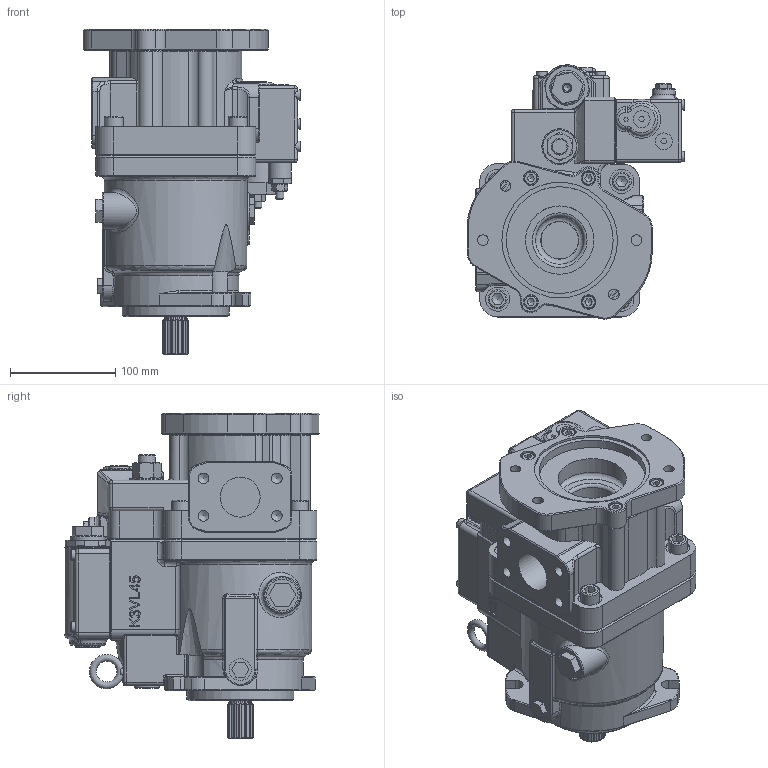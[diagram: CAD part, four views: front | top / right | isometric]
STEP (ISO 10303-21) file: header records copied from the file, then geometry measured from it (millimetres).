
FILE_DESCRIPTION((''),'2;1');
FILE_NAME('J:\Inventor\K3V, M2X\MODEL LIBRARY\K3VL45B 1BBRSM PO 1-H.stp','2008-04-30T12:29:59',('mnorman'),(''),'Autodesk Inventor 2008','Autodesk Inventor 2008','');
FILE_SCHEMA(('AUTOMOTIVE_DESIGN { 1 0 10303 214 1 1 1 1 }'));
Length unit declared in the file: millimetre
Products named in the file (1): Part6
Bounding box: 207 x 242.14 x 310 mm (x, y, z)
Volume: 5351493 mm3; surface area: 393707.8 mm2
Topology: 1 solids, 34 shells, 1530 faces, 3663 edges, 2255 vertices
Faces by surface type: plane 664, cylinder 339, bspline 279, cone 189, torus 48, sphere 11
Full cylindrical faces by diameter (mm): 6 x8, 6.5 x4, 8 x9, 9 x2, 10 x8, 11 x4, 12 x4, 13 x4, 14 x2, 16 x4, 18 x4, 21 x1, 21.3 x1, 22 x2, 24 x3, 25 x1, 26 x1, 30 x5, 32 x1, 33 x2, 35.5 x1, 36 x1, 38 x1, 46 x1, 65 x1, 75 x1, 82.55 x2, 90 x2, 101.6 x2, 105 x1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
Entity records: 58592 total; most frequent: CARTESIAN_POINT 25088, ORIENTED_EDGE 6598, DIRECTION 6378, EDGE_CURVE 3299, AXIS2_PLACEMENT_3D 2418, VERTEX_POINT 2138, EDGE_LOOP 1875, VECTOR 1542
